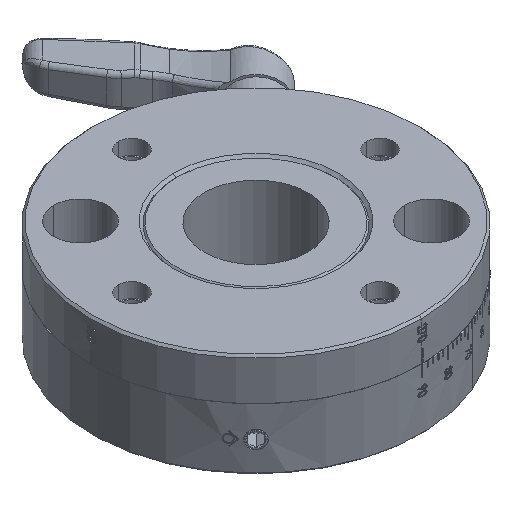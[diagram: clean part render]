
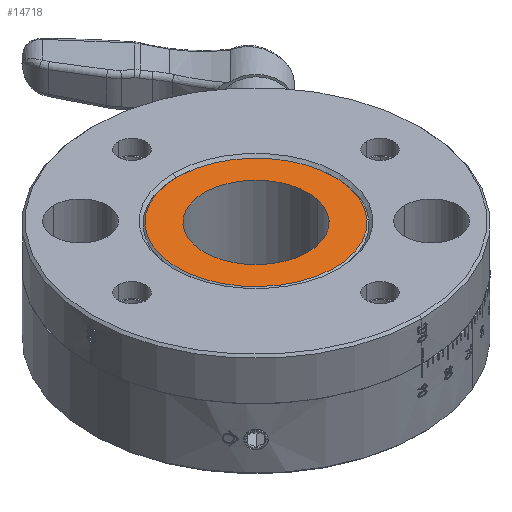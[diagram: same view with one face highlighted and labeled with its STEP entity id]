
A CAD part, isometric view. The second image highlights one B-rep face of the part: STEP entity #14718.
In plain terms, the highlighted planar face has unit normal (0, 0, 1).
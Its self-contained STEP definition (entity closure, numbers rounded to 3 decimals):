
#6615 = VERTEX_POINT ( 'NONE', #43678 ) ;
#6797 = EDGE_CURVE ( 'NONE', #6798, #6799, #44271, .T. ) ;
#6798 = VERTEX_POINT ( 'NONE', #44267 ) ;
#6799 = VERTEX_POINT ( 'NONE', #44266 ) ;
#6878 = EDGE_CURVE ( 'NONE', #6879, #6615, #44443, .T. ) ;
#6879 = VERTEX_POINT ( 'NONE', #44438 ) ;
#13247 = EDGE_CURVE ( 'NONE', #6615, #6879, #48448, .T. ) ;
#14688 = ORIENTED_EDGE ( 'NONE', *, *, #6797, .T. ) ;
#14690 = EDGE_LOOP ( 'NONE', ( #15035, #14814 ) ) ;
#14718 = ADVANCED_FACE ( 'NONE', ( #25056, #25055 ), #25054, .F. ) ;
#14719 = EDGE_LOOP ( 'NONE', ( #14810, #14688 ) ) ;
#14810 = ORIENTED_EDGE ( 'NONE', *, *, #14812, .T. ) ;
#14812 = EDGE_CURVE ( 'NONE', #6799, #6798, #25154, .T. ) ;
#14814 = ORIENTED_EDGE ( 'NONE', *, *, #13247, .T. ) ;
#15035 = ORIENTED_EDGE ( 'NONE', *, *, #6878, .T. ) ;
#25050 = DIRECTION ( 'NONE',  ( 0.976, -0.216, 0. ) ) ;
#25051 = DIRECTION ( 'NONE',  ( 0., 0., -1. ) ) ;
#25052 = CARTESIAN_POINT ( 'NONE',  ( 0., 0., -0.3 ) ) ;
#25053 = AXIS2_PLACEMENT_3D ( 'NONE', #25052, #25051, #25050 ) ;
#25054 = PLANE ( 'NONE',  #25053 ) ;
#25055 = FACE_BOUND ( 'NONE', #14690, .T. ) ;
#25056 = FACE_OUTER_BOUND ( 'NONE', #14719, .T. ) ;
#25150 = DIRECTION ( 'NONE',  ( 0.976, -0.216, 0. ) ) ;
#25151 = DIRECTION ( 'NONE',  ( 0., 0., 1. ) ) ;
#25152 = CARTESIAN_POINT ( 'NONE',  ( 0., 0., -0.3 ) ) ;
#25153 = AXIS2_PLACEMENT_3D ( 'NONE', #25152, #25151, #25150 ) ;
#25154 = CIRCLE ( 'NONE', #25153, 19. ) ;
#43678 = CARTESIAN_POINT ( 'NONE',  ( 12.204, -2.705, -0.3 ) ) ;
#44266 = CARTESIAN_POINT ( 'NONE',  ( 18.55, -4.112, -0.3 ) ) ;
#44267 = CARTESIAN_POINT ( 'NONE',  ( -18.55, 4.112, -0.3 ) ) ;
#44268 = DIRECTION ( 'NONE',  ( 0.976, -0.216, 0. ) ) ;
#44269 = DIRECTION ( 'NONE',  ( 0., 0., 1. ) ) ;
#44270 = AXIS2_PLACEMENT_3D ( 'NONE', #44277, #44269, #44268 ) ;
#44271 = CIRCLE ( 'NONE', #44270, 19. ) ;
#44277 = CARTESIAN_POINT ( 'NONE',  ( 0., 0., -0.3 ) ) ;
#44438 = CARTESIAN_POINT ( 'NONE',  ( -12.204, 2.705, -0.3 ) ) ;
#44439 = DIRECTION ( 'NONE',  ( 0.976, -0.216, 0. ) ) ;
#44440 = DIRECTION ( 'NONE',  ( 0., 0., -1. ) ) ;
#44441 = CARTESIAN_POINT ( 'NONE',  ( 0., 0., -0.3 ) ) ;
#44442 = AXIS2_PLACEMENT_3D ( 'NONE', #44441, #44440, #44439 ) ;
#44443 = CIRCLE ( 'NONE', #44442, 12.5 ) ;
#48444 = DIRECTION ( 'NONE',  ( 0.976, -0.216, 0. ) ) ;
#48445 = DIRECTION ( 'NONE',  ( 0., 0., -1. ) ) ;
#48446 = CARTESIAN_POINT ( 'NONE',  ( 0., 0., -0.3 ) ) ;
#48447 = AXIS2_PLACEMENT_3D ( 'NONE', #48446, #48445, #48444 ) ;
#48448 = CIRCLE ( 'NONE', #48447, 12.5 ) ;
